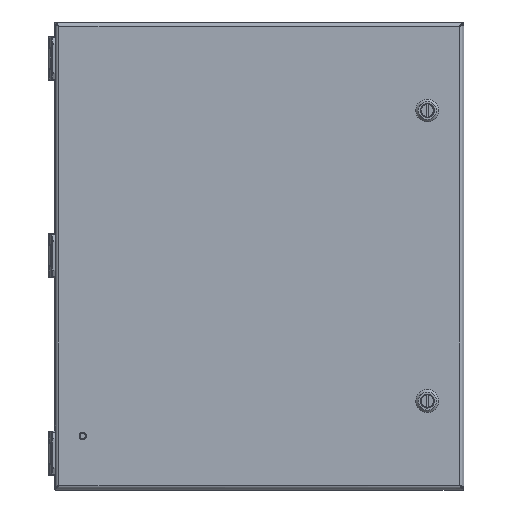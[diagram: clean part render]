
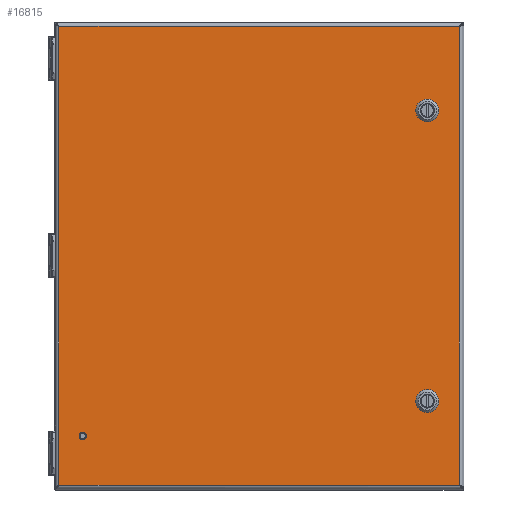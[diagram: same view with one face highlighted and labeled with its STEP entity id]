
A CAD part, top view. The second image highlights one B-rep face of the part: STEP entity #16815.
In plain terms, the highlighted planar face has unit normal (0, 0, 1).
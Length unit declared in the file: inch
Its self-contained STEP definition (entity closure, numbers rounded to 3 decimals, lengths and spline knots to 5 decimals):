
#14458=CARTESIAN_POINT('',(-6.035,-6.16,0.81));
#14459=DIRECTION('',(0.,0.,1.));
#14460=DIRECTION('',(-1.,0.,0.));
#14461=AXIS2_PLACEMENT_3D('',#14458,#14459,#14460);
#14466=CARTESIAN_POINT('',(-6.035,-6.16,0.81));
#14467=DIRECTION('',(0.,0.,1.));
#14468=DIRECTION('',(1.,0.,0.));
#14469=AXIS2_PLACEMENT_3D('',#14466,#14467,#14468);
#14474=DIRECTION('',(0.707,0.707,0.));
#14475=VECTOR('',#14474,0.30984);
#14476=CARTESIAN_POINT('',(5.44447,5.05845,0.81));
#14477=LINE('',#14476,#14475);
#14481=CARTESIAN_POINT('',(5.752,4.97,0.81));
#14482=DIRECTION('',(0.,0.,1.));
#14483=DIRECTION('',(-0.961,0.276,0.));
#14484=AXIS2_PLACEMENT_3D('',#14481,#14482,#14483);
#14489=DIRECTION('',(-0.707,0.707,0.));
#14490=VECTOR('',#14489,0.30984);
#14491=CARTESIAN_POINT('',(5.66355,4.66247,0.81));
#14492=LINE('',#14491,#14490);
#14496=CARTESIAN_POINT('',(5.752,4.97,0.81));
#14497=DIRECTION('',(0.,0.,1.));
#14498=DIRECTION('',(-0.276,-0.961,0.));
#14499=AXIS2_PLACEMENT_3D('',#14496,#14497,#14498);
#14504=DIRECTION('',(-0.707,-0.707,0.));
#14505=VECTOR('',#14504,0.30984);
#14506=CARTESIAN_POINT('',(6.05953,4.88155,0.81));
#14507=LINE('',#14506,#14505);
#14511=CARTESIAN_POINT('',(5.752,4.97,0.81));
#14512=DIRECTION('',(0.,0.,1.));
#14513=DIRECTION('',(0.961,-0.276,0.));
#14514=AXIS2_PLACEMENT_3D('',#14511,#14512,#14513);
#14519=DIRECTION('',(0.707,-0.707,0.));
#14520=VECTOR('',#14519,0.30984);
#14521=CARTESIAN_POINT('',(5.84045,5.27753,0.81));
#14522=LINE('',#14521,#14520);
#14526=CARTESIAN_POINT('',(5.752,4.97,0.81));
#14527=DIRECTION('',(0.,0.,1.));
#14528=DIRECTION('',(0.276,0.961,0.));
#14529=AXIS2_PLACEMENT_3D('',#14526,#14527,#14528);
#14534=DIRECTION('',(0.707,0.707,0.));
#14535=VECTOR('',#14534,0.30984);
#14536=CARTESIAN_POINT('',(5.44447,-4.88155,0.81));
#14537=LINE('',#14536,#14535);
#14541=CARTESIAN_POINT('',(5.752,-4.97,0.81));
#14542=DIRECTION('',(0.,0.,1.));
#14543=DIRECTION('',(-0.961,0.276,0.));
#14544=AXIS2_PLACEMENT_3D('',#14541,#14542,#14543);
#14549=DIRECTION('',(-0.707,0.707,0.));
#14550=VECTOR('',#14549,0.30984);
#14551=CARTESIAN_POINT('',(5.66355,-5.27753,0.81));
#14552=LINE('',#14551,#14550);
#14556=CARTESIAN_POINT('',(5.752,-4.97,0.81));
#14557=DIRECTION('',(0.,0.,1.));
#14558=DIRECTION('',(-0.276,-0.961,0.));
#14559=AXIS2_PLACEMENT_3D('',#14556,#14557,#14558);
#14564=DIRECTION('',(-0.707,-0.707,0.));
#14565=VECTOR('',#14564,0.30984);
#14566=CARTESIAN_POINT('',(6.05953,-5.05845,0.81));
#14567=LINE('',#14566,#14565);
#14571=CARTESIAN_POINT('',(5.752,-4.97,0.81));
#14572=DIRECTION('',(0.,0.,1.));
#14573=DIRECTION('',(0.961,-0.276,0.));
#14574=AXIS2_PLACEMENT_3D('',#14571,#14572,#14573);
#14579=DIRECTION('',(0.707,-0.707,0.));
#14580=VECTOR('',#14579,0.30984);
#14581=CARTESIAN_POINT('',(5.84045,-4.66247,0.81));
#14582=LINE('',#14581,#14580);
#14586=CARTESIAN_POINT('',(5.752,-4.97,0.81));
#14587=DIRECTION('',(0.,0.,1.));
#14588=DIRECTION('',(0.276,0.961,0.));
#14589=AXIS2_PLACEMENT_3D('',#14586,#14587,#14588);
#14594=DIRECTION('',(1.,0.,0.));
#14595=VECTOR('',#14594,13.7);
#14596=CARTESIAN_POINT('',(-6.85,-7.85,0.81));
#14597=LINE('',#14596,#14595);
#14683=DIRECTION('',(0.,1.,0.));
#14684=VECTOR('',#14683,15.7);
#14685=CARTESIAN_POINT('',(6.85,-7.85,0.81));
#14686=LINE('',#14685,#14684);
#14732=DIRECTION('',(-1.,0.,0.));
#14733=VECTOR('',#14732,13.7);
#14734=CARTESIAN_POINT('',(6.85,7.85,0.81));
#14735=LINE('',#14734,#14733);
#14828=DIRECTION('',(0.,-1.,0.));
#14829=VECTOR('',#14828,15.7);
#14830=CARTESIAN_POINT('',(-6.85,7.85,0.81));
#14831=LINE('',#14830,#14829);
#16454=CARTESIAN_POINT('',(-6.85,7.85,0.81));
#16455=CARTESIAN_POINT('',(-6.85,-7.85,0.81));
#16456=VERTEX_POINT('',#16454);
#16457=VERTEX_POINT('',#16455);
#16458=CARTESIAN_POINT('',(6.85,-7.85,0.81));
#16459=CARTESIAN_POINT('',(6.85,7.85,0.81));
#16460=VERTEX_POINT('',#16458);
#16461=VERTEX_POINT('',#16459);
#16522=CARTESIAN_POINT('',(-6.13305,-6.16,0.81));
#16523=CARTESIAN_POINT('',(-5.93695,-6.16,0.81));
#16524=VERTEX_POINT('',#16522);
#16525=VERTEX_POINT('',#16523);
#16530=CARTESIAN_POINT('',(5.44447,5.05845,0.81));
#16531=CARTESIAN_POINT('',(5.66355,5.27753,0.81));
#16532=VERTEX_POINT('',#16530);
#16533=VERTEX_POINT('',#16531);
#16534=CARTESIAN_POINT('',(5.84045,5.27753,0.81));
#16535=VERTEX_POINT('',#16534);
#16536=CARTESIAN_POINT('',(6.05953,5.05845,0.81));
#16537=VERTEX_POINT('',#16536);
#16538=CARTESIAN_POINT('',(6.05953,4.88155,0.81));
#16539=VERTEX_POINT('',#16538);
#16540=CARTESIAN_POINT('',(5.84045,4.66247,0.81));
#16541=VERTEX_POINT('',#16540);
#16542=CARTESIAN_POINT('',(5.66355,4.66247,0.81));
#16543=VERTEX_POINT('',#16542);
#16544=CARTESIAN_POINT('',(5.44447,4.88155,0.81));
#16545=VERTEX_POINT('',#16544);
#16570=CARTESIAN_POINT('',(5.44447,-4.88155,0.81));
#16571=CARTESIAN_POINT('',(5.66355,-4.66247,0.81));
#16572=VERTEX_POINT('',#16570);
#16573=VERTEX_POINT('',#16571);
#16574=CARTESIAN_POINT('',(5.84045,-4.66247,0.81));
#16575=VERTEX_POINT('',#16574);
#16576=CARTESIAN_POINT('',(6.05953,-4.88155,0.81));
#16577=VERTEX_POINT('',#16576);
#16578=CARTESIAN_POINT('',(6.05953,-5.05845,0.81));
#16579=VERTEX_POINT('',#16578);
#16580=CARTESIAN_POINT('',(5.84045,-5.27753,0.81));
#16581=VERTEX_POINT('',#16580);
#16582=CARTESIAN_POINT('',(5.66355,-5.27753,0.81));
#16583=VERTEX_POINT('',#16582);
#16584=CARTESIAN_POINT('',(5.44447,-5.05845,0.81));
#16585=VERTEX_POINT('',#16584);
#16758=CARTESIAN_POINT('',(0.,0.,0.81));
#16759=DIRECTION('',(0.,0.,1.));
#16760=DIRECTION('',(1.,0.,0.));
#16761=AXIS2_PLACEMENT_3D('',#16758,#16759,#16760);
#16762=PLANE('',#16761);
#16764=ORIENTED_EDGE('',*,*,#16763,.F.);
#16766=ORIENTED_EDGE('',*,*,#16765,.F.);
#16768=ORIENTED_EDGE('',*,*,#16767,.F.);
#16770=ORIENTED_EDGE('',*,*,#16769,.F.);
#16771=EDGE_LOOP('',(#16764,#16766,#16768,#16770));
#16772=FACE_OUTER_BOUND('',#16771,.F.);
#16774=ORIENTED_EDGE('',*,*,#16773,.T.);
#16776=ORIENTED_EDGE('',*,*,#16775,.T.);
#16777=EDGE_LOOP('',(#16774,#16776));
#16778=FACE_BOUND('',#16777,.F.);
#16780=ORIENTED_EDGE('',*,*,#16779,.F.);
#16782=ORIENTED_EDGE('',*,*,#16781,.T.);
#16784=ORIENTED_EDGE('',*,*,#16783,.F.);
#16786=ORIENTED_EDGE('',*,*,#16785,.T.);
#16788=ORIENTED_EDGE('',*,*,#16787,.F.);
#16790=ORIENTED_EDGE('',*,*,#16789,.T.);
#16792=ORIENTED_EDGE('',*,*,#16791,.F.);
#16794=ORIENTED_EDGE('',*,*,#16793,.T.);
#16795=EDGE_LOOP('',(#16780,#16782,#16784,#16786,#16788,#16790,#16792,#16794));
#16796=FACE_BOUND('',#16795,.F.);
#16798=ORIENTED_EDGE('',*,*,#16797,.F.);
#16800=ORIENTED_EDGE('',*,*,#16799,.T.);
#16802=ORIENTED_EDGE('',*,*,#16801,.F.);
#16804=ORIENTED_EDGE('',*,*,#16803,.T.);
#16806=ORIENTED_EDGE('',*,*,#16805,.F.);
#16808=ORIENTED_EDGE('',*,*,#16807,.T.);
#16810=ORIENTED_EDGE('',*,*,#16809,.F.);
#16812=ORIENTED_EDGE('',*,*,#16811,.T.);
#16813=EDGE_LOOP('',(#16798,#16800,#16802,#16804,#16806,#16808,#16810,#16812));
#16814=FACE_BOUND('',#16813,.F.);
#14462=CIRCLE('',#14461,0.09805);
#14470=CIRCLE('',#14469,0.09805);
#14485=CIRCLE('',#14484,0.32);
#14500=CIRCLE('',#14499,0.32);
#14515=CIRCLE('',#14514,0.32);
#14530=CIRCLE('',#14529,0.32);
#14545=CIRCLE('',#14544,0.32);
#14560=CIRCLE('',#14559,0.32);
#14575=CIRCLE('',#14574,0.32);
#14590=CIRCLE('',#14589,0.32);
#16763=EDGE_CURVE('',#16457,#16460,#14597,.T.);
#16765=EDGE_CURVE('',#16456,#16457,#14831,.T.);
#16767=EDGE_CURVE('',#16461,#16456,#14735,.T.);
#16769=EDGE_CURVE('',#16460,#16461,#14686,.T.);
#16773=EDGE_CURVE('',#16524,#16525,#14462,.T.);
#16775=EDGE_CURVE('',#16525,#16524,#14470,.T.);
#16779=EDGE_CURVE('',#16532,#16533,#14477,.T.);
#16781=EDGE_CURVE('',#16532,#16545,#14485,.T.);
#16783=EDGE_CURVE('',#16543,#16545,#14492,.T.);
#16785=EDGE_CURVE('',#16543,#16541,#14500,.T.);
#16787=EDGE_CURVE('',#16539,#16541,#14507,.T.);
#16789=EDGE_CURVE('',#16539,#16537,#14515,.T.);
#16791=EDGE_CURVE('',#16535,#16537,#14522,.T.);
#16793=EDGE_CURVE('',#16535,#16533,#14530,.T.);
#16797=EDGE_CURVE('',#16572,#16573,#14537,.T.);
#16799=EDGE_CURVE('',#16572,#16585,#14545,.T.);
#16801=EDGE_CURVE('',#16583,#16585,#14552,.T.);
#16803=EDGE_CURVE('',#16583,#16581,#14560,.T.);
#16805=EDGE_CURVE('',#16579,#16581,#14567,.T.);
#16807=EDGE_CURVE('',#16579,#16577,#14575,.T.);
#16809=EDGE_CURVE('',#16575,#16577,#14582,.T.);
#16811=EDGE_CURVE('',#16575,#16573,#14590,.T.);
#16815=ADVANCED_FACE('',(#16772,#16778,#16796,#16814),#16762,.T.);
